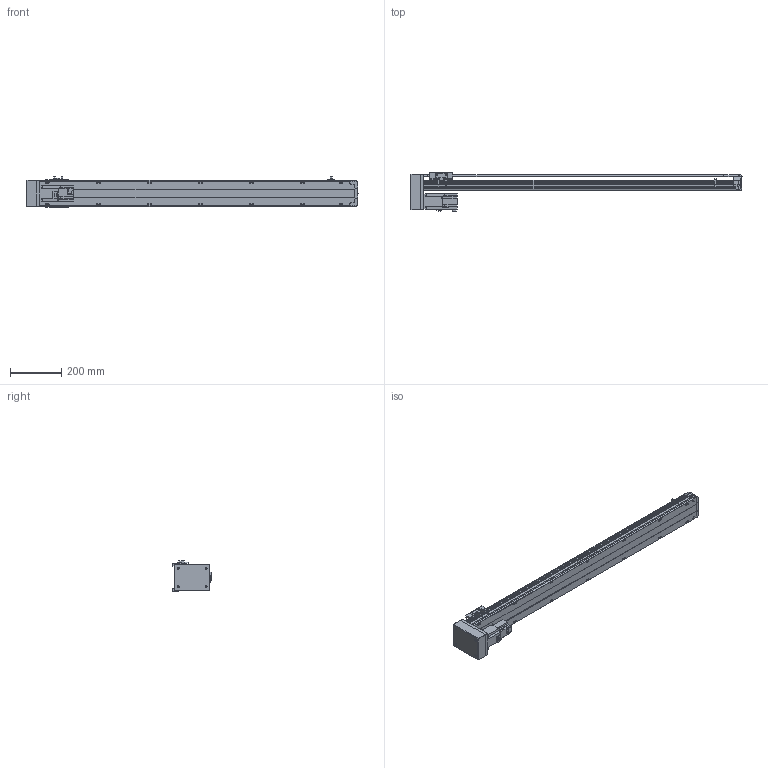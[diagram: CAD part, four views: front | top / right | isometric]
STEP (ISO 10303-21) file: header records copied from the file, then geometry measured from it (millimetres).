
FILE_DESCRIPTION( ( 'STEP AP214' ), '1' );
FILE_NAME( 'x:/temp/worker_27/temp/exporttempdir_6708_79_zQf9u/format_0/PSS120-L10-S1050-BM-T40-C1-N(0).stp', '2022-06-06T00:27:15', ( 'License CC BY-ND 4.0' ), ( 'CADENAS' ), ' ', 'PARTsolutions', ' ' );
FILE_SCHEMA( ( 'AUTOMOTIVE_DESIGN { 1 0 10303 214 1 1 1 1 }' ) );
Length unit declared in the file: millimetre
Products named in the file (8): PSS120-L10-S1050-BM-T40-C1-N(0); _PSS120-S1050-BM-C1-N_body; _PSS120-N_Q; _PSS120-BM-C1-N_sl; _PSS120-N_sensor; _PSS120BM-N_h; _T40-p1; _PSS120-S1050-BM-N_S
Assembly tree (9 placements, depth 2):
  PSS120-L10-S1050-BM-T40-C1-N(0)
    _PSS120-S1050-BM-C1-N_body
    _PSS120-N_Q
    _PSS120-BM-C1-N_sl
    _PSS120-N_sensor  x3
    _PSS120BM-N_h
    _T40-p1
    _PSS120-S1050-BM-N_S
Bounding box: 1299.35 x 151.8 x 117.7 mm (x, y, z)
Volume: 5027561.6 mm3; surface area: 831809.6 mm2
Topology: 9 solids, 9 shells, 857 faces, 2301 edges, 1526 vertices
Faces by surface type: plane 586, cylinder 245, cone 22, sphere 4
Full cylindrical faces by diameter (mm): 2.8 x3, 4 x4, 4.134 x18, 4.4 x2, 4.5 x4, 4.6 x3, 5 x6, 5.5 x21, 7 x2, 7.4 x4, 8 x4, 8.5 x18, 14 x1, 28 x1, 32 x2, 50 x1
Entity records: 29545 total; most frequent: CARTESIAN_POINT 4628, DIRECTION 3853, ORIENTED_EDGE 3754, EDGE_CURVE 1877, LINE 1315, VECTOR 1315, VERTEX_POINT 1310, AXIS2_PLACEMENT_3D 1269
